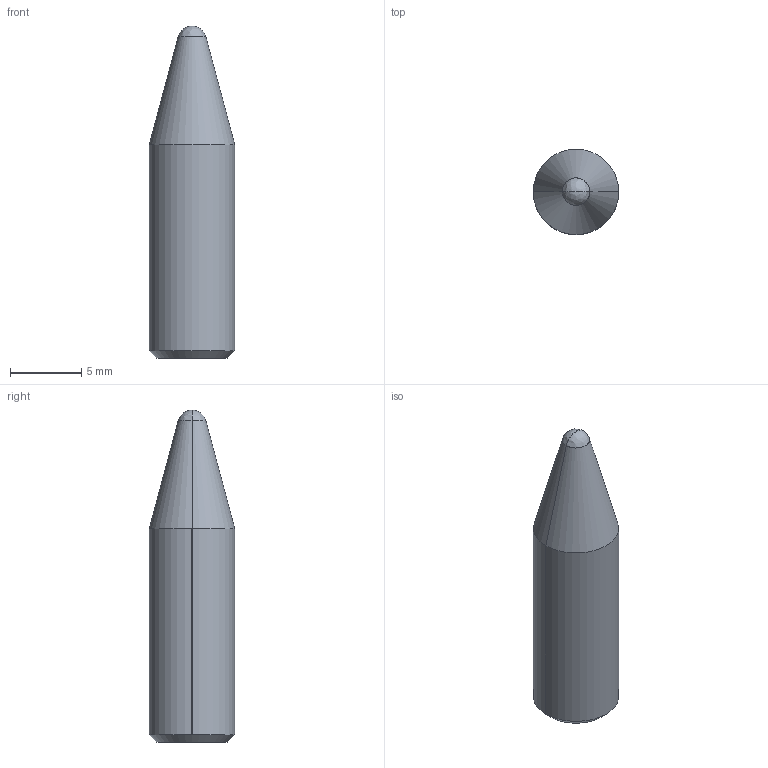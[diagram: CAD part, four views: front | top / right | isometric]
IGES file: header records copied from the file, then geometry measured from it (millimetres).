
Global section: file name: E:\UnigraphicsGraphicData\MISUMI_PRESS-PARTS\IGES\3d_snst6-b15_03102_r00.igs; native system: NX V5.0; preprocessor: UGS NX IGES V5.0; author: MISUMI; date: 20110105.162853; units: millimetre
Bounding box: 6 x 6 x 23.33 mm (x, y, z)
Surface area: 508.3 mm2 (no closed solid volume)
Topology: 0 solids, 0 shells, 12 faces, 64 edges, 62 vertices
Faces by surface type: bspline 12
